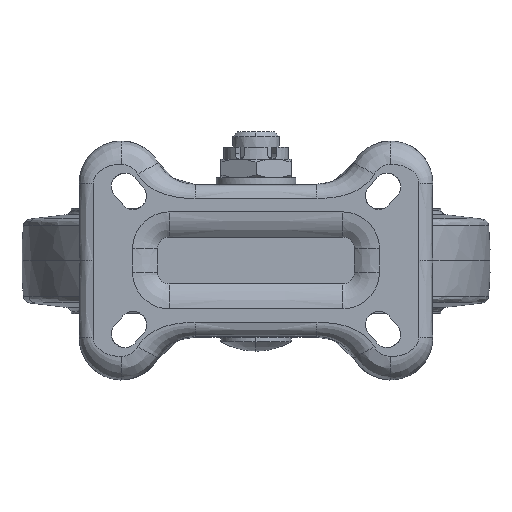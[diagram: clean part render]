
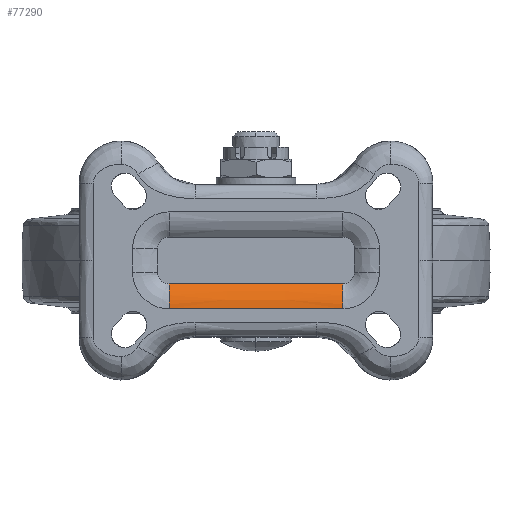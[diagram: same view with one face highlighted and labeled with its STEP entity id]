
A CAD part, top view. The second image highlights one B-rep face of the part: STEP entity #77290.
In plain terms, the highlighted free-form (B-spline) face has degree [3, 3] with [4, 4] control points.
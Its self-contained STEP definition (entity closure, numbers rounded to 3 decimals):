
#54 = B_SPLINE_CURVE_WITH_KNOTS ( 'NONE', 3,
 ( #37272, #37300, #37301, #37302 ),
 .UNSPECIFIED., .F., .F.,
 ( 4, 4 ),
 ( 0., 1. ),
 .UNSPECIFIED. ) ;
#9411 = B_SPLINE_SURFACE_WITH_KNOTS ( 'NONE', 3, 3, ( 
 ( #57426, #57425, #57427, #57390 ),
 ( #57428, #57429, #57430, #57431 ),
 ( #57432, #57433, #57434, #57435 ),
 ( #57436, #57437, #57438, #57439 ) ),
 .UNSPECIFIED., .F., .F., .F.,
 ( 4, 4 ),
 ( 4, 4 ),
 ( 0., 1. ),
 ( 0., 1. ),
 .UNSPECIFIED. ) ;
#28782 = VERTEX_POINT ( 'NONE', #76652 ) ;
#28784 = VERTEX_POINT ( 'NONE', #76653 ) ;
#28828 = VERTEX_POINT ( 'NONE', #76675 ) ;
#28830 = VERTEX_POINT ( 'NONE', #76676 ) ;
#29204 = LINE ( 'NONE', #72123, #29207 ) ;
#29207 = VECTOR ( 'NONE', #72131, 1000. ) ;
#29208 = LINE ( 'NONE', #64554, #29211 ) ;
#29211 = VECTOR ( 'NONE', #64599, 1000. ) ;
#37272 = CARTESIAN_POINT ( 'NONE',  ( -37., -20.712, 150. ) ) ;
#37300 = CARTESIAN_POINT ( 'NONE',  ( -37., -16.682, 150. ) ) ;
#37301 = CARTESIAN_POINT ( 'NONE',  ( -37., -12.821, 148.378 ) ) ;
#37302 = CARTESIAN_POINT ( 'NONE',  ( -37., -10., 145.5 ) ) ;
#40954 = EDGE_CURVE ( 'NONE', #28828, #28830, #29204, .T. ) ;
#40959 = EDGE_CURVE ( 'NONE', #28784, #28782, #29208, .T. ) ;
#40974 = EDGE_CURVE ( 'NONE', #28784, #28828, #63223, .T. ) ;
#41583 = ORIENTED_EDGE ( 'NONE', *, *, #40954, .F. ) ;
#41584 = ORIENTED_EDGE ( 'NONE', *, *, #40974, .F. ) ;
#41585 = ORIENTED_EDGE ( 'NONE', *, *, #40959, .T. ) ;
#41586 = ORIENTED_EDGE ( 'NONE', *, *, #76572, .F. ) ;
#57390 = CARTESIAN_POINT ( 'NONE',  ( -37., -10., 145.5 ) ) ;
#57425 = CARTESIAN_POINT ( 'NONE',  ( -37., -16.682, 150. ) ) ;
#57426 = CARTESIAN_POINT ( 'NONE',  ( -37., -20.712, 150. ) ) ;
#57427 = CARTESIAN_POINT ( 'NONE',  ( -37., -12.821, 148.378 ) ) ;
#57428 = CARTESIAN_POINT ( 'NONE',  ( -12.333, -20.712, 150. ) ) ;
#57429 = CARTESIAN_POINT ( 'NONE',  ( -12.333, -16.682, 150. ) ) ;
#57430 = CARTESIAN_POINT ( 'NONE',  ( -12.333, -12.821, 148.378 ) ) ;
#57431 = CARTESIAN_POINT ( 'NONE',  ( -12.333, -10., 145.5 ) ) ;
#57432 = CARTESIAN_POINT ( 'NONE',  ( 12.333, -20.712, 150. ) ) ;
#57433 = CARTESIAN_POINT ( 'NONE',  ( 12.333, -16.682, 150. ) ) ;
#57434 = CARTESIAN_POINT ( 'NONE',  ( 12.333, -12.821, 148.378 ) ) ;
#57435 = CARTESIAN_POINT ( 'NONE',  ( 12.333, -10., 145.5 ) ) ;
#57436 = CARTESIAN_POINT ( 'NONE',  ( 37., -20.712, 150. ) ) ;
#57437 = CARTESIAN_POINT ( 'NONE',  ( 37., -16.682, 150. ) ) ;
#57438 = CARTESIAN_POINT ( 'NONE',  ( 37., -12.821, 148.378 ) ) ;
#57439 = CARTESIAN_POINT ( 'NONE',  ( 37., -10., 145.5 ) ) ;
#59983 = EDGE_LOOP ( 'NONE', ( #41583, #41584, #41585, #41586 ) ) ;
#63223 = B_SPLINE_CURVE_WITH_KNOTS ( 'NONE', 3,
 ( #65281, #65307, #65310, #65313 ),
 .UNSPECIFIED., .F., .F.,
 ( 4, 4 ),
 ( 0., 1. ),
 .UNSPECIFIED. ) ;
#64554 = CARTESIAN_POINT ( 'NONE',  ( -50.4, -10., 145.5 ) ) ;
#64599 = DIRECTION ( 'NONE',  ( -1., 0., 0. ) ) ;
#65281 = CARTESIAN_POINT ( 'NONE',  ( 37., -10., 145.5 ) ) ;
#65307 = CARTESIAN_POINT ( 'NONE',  ( 37., -12.821, 148.378 ) ) ;
#65310 = CARTESIAN_POINT ( 'NONE',  ( 37., -16.682, 150. ) ) ;
#65313 = CARTESIAN_POINT ( 'NONE',  ( 37., -20.712, 150. ) ) ;
#72123 = CARTESIAN_POINT ( 'NONE',  ( -90.6, -20.712, 150. ) ) ;
#72131 = DIRECTION ( 'NONE',  ( -1., 0., 0. ) ) ;
#76228 = FACE_OUTER_BOUND ( 'NONE', #59983, .T. ) ;
#76572 = EDGE_CURVE ( 'NONE', #28830, #28782, #54, .T. ) ;
#76652 = CARTESIAN_POINT ( 'NONE',  ( -37., -10., 145.5 ) ) ;
#76653 = CARTESIAN_POINT ( 'NONE',  ( 37., -10., 145.5 ) ) ;
#76675 = CARTESIAN_POINT ( 'NONE',  ( 37., -20.712, 150. ) ) ;
#76676 = CARTESIAN_POINT ( 'NONE',  ( -37., -20.712, 150. ) ) ;
#77290 = ADVANCED_FACE ( 'NONE', ( #76228 ), #9411, .T. ) ;
